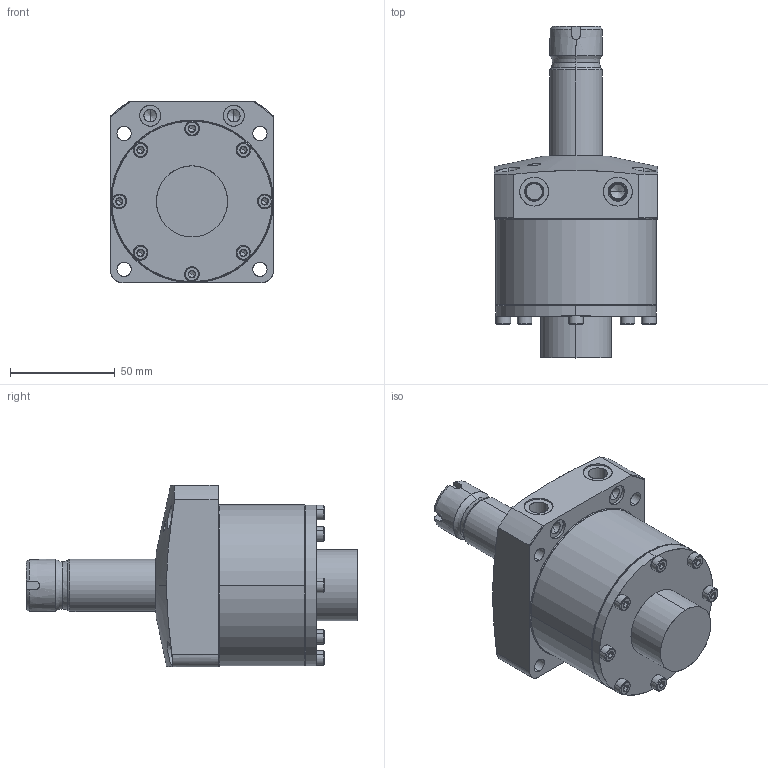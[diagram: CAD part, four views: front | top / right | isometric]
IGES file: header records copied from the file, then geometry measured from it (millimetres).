
Start section: SolidWorks IGES file using analytic representation for surfaces
Global section: file name: L:\電子カタログ-3D_IGES\WHA0630-2AR-F.igs; native system: SolidWorks 2009; preprocessor: SolidWorks 2009; author: D211; date: 100416.113337; units: millimetre
Bounding box: 78 x 158.8 x 87 mm (x, y, z)
Surface area: 60607.4 mm2 (no closed solid volume)
Topology: 0 solids, 0 shells, 408 faces, 6151 edges, 6119 vertices
Faces by surface type: revolution 243, bspline 165
